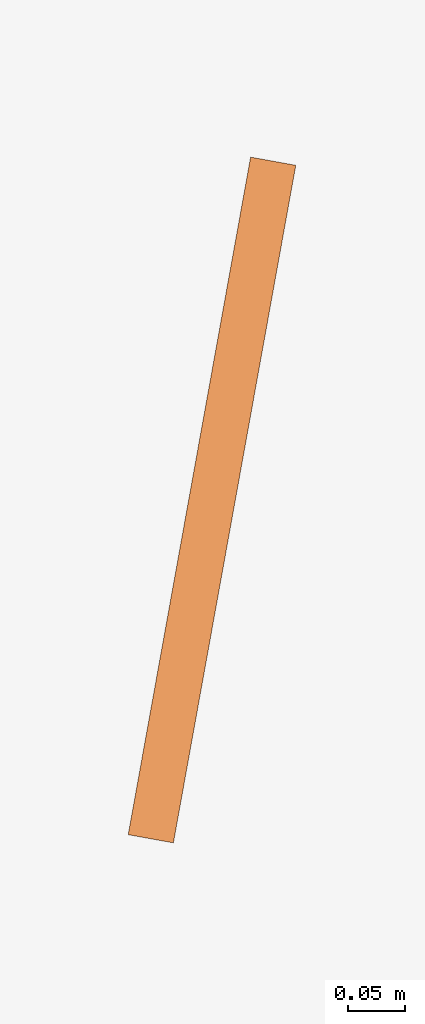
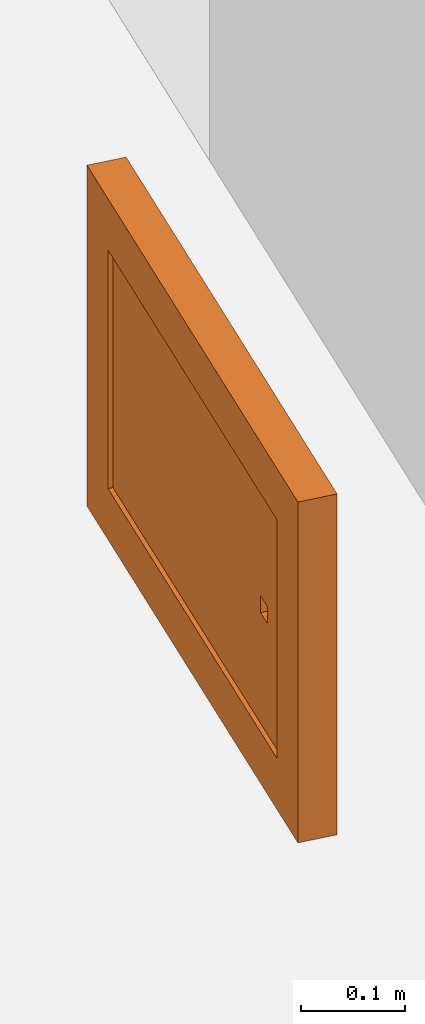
# One storey, part 32 of 52: 1 proxy.
"""IFC2X3 building model written with IfcOpenShell, lengths in metres."""

from ifc_helpers import new_model, entity, si_unit, converted_unit, derived_unit, money_unit, direction, frame, origin_with_axes, place, context, subcontext, project, spatial, open_shell, faceted_brep, surface_model, source, transform, mapped, material, type_object, element, save


model = new_model("IFC2X3")

# Units and contexts
model_context = context("Model", 3, precision=1e-05, world=origin_with_axes(), true_north=direction((0.0, 1.0)))
body_context = subcontext(model_context, "Body", "Model", "MODEL_VIEW")
ifc_project = project(units=[si_unit("LENGTHUNIT", "METRE"), si_unit("AREAUNIT", "SQUARE_METRE"), si_unit("VOLUMEUNIT", "CUBIC_METRE"), converted_unit("PLANEANGLEUNIT", "DEGREE", entity("IfcPlaneAngleMeasure", 0.0174532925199), si_unit("PLANEANGLEUNIT", "RADIAN"), dimensions=[0, 0, 0, 0, 0, 0, 0]), money_unit("CHF"), converted_unit("TIMEUNIT", "Year", entity("IfcTimeMeasure", 31556926.0), si_unit("TIMEUNIT", "SECOND"), dimensions=[0, 0, 1, 0, 0, 0, 0]), si_unit("MASSUNIT", "GRAM", prefix="KILO"), si_unit("THERMODYNAMICTEMPERATUREUNIT", "DEGREE_CELSIUS"), si_unit("LUMINOUSINTENSITYUNIT", "LUMEN"), si_unit("ENERGYUNIT", "JOULE", prefix="MEGA"), derived_unit("THERMALCONDUCTANCEUNIT", [(si_unit("POWERUNIT", "WATT"), 1), (si_unit("LENGTHUNIT", "METRE"), -1), (si_unit("THERMODYNAMICTEMPERATUREUNIT", "KELVIN"), -1)]), derived_unit("SPECIFICHEATCAPACITYUNIT", [(si_unit("ENERGYUNIT", "JOULE"), 1), (si_unit("MASSUNIT", "GRAM", prefix="KILO"), -1), (si_unit("THERMODYNAMICTEMPERATUREUNIT", "KELVIN"), -1)]), derived_unit("MASSDENSITYUNIT", [(si_unit("MASSUNIT", "GRAM", prefix="KILO"), 1), (si_unit("VOLUMEUNIT", "CUBIC_METRE"), -1)])], contexts=[model_context])

# Site, building, storey
site_placement = place(None, frame((0.0, 0.0, 0.0), z_axis=(0.0, 0.0, 1.0), x_axis=(-0.177771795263, -0.984071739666, 0.0)))
site = spatial("IfcSite", under=ifc_project, at=site_placement, Name="Site", CompositionType="ELEMENT")
building_placement = place(site_placement, origin_with_axes())
building = spatial("IfcBuilding", under=site, at=building_placement, Name="Bâtiment", CompositionType="ELEMENT")
storey_placement = place(building_placement, frame((0.0, 0.0, 3.2), z_axis=(0.0, 0.0, 1.0), x_axis=(1.0, 0.0, 0.0)))
storey = spatial("IfcBuildingStorey", under=building, at=storey_placement, Name="R+1", CompositionType="ELEMENT", Elevation=3.2)

# Proxy
ifc_material = material(Name="Matériau de construction IFC")
building_element_proxy_type = type_object("IfcBuildingElementProxyType", Name="Trappe-visite_JM", PredefinedType="NOTDEFINED")
shared_shape = source(origin_with_axes(), body_context, "Body", "SurfaceModel", [
    surface_model("IfcShellBasedSurfaceModel", [(0.6, -0.035, 0.0), (0.0, -0.035, 0.0), (0.0, -0.035, 0.4), (0.6, -0.035, 0.4), (0.54, -0.035, 0.06), (0.54, -0.035, 0.34), (0.06, -0.035, 0.34), (0.06, -0.035, 0.06)], [open_shell([[[0, 1, 2, 3], [4, 5, 6, 7]]])]),
    faceted_brep([(0.6, 0.005, 0.0), (0.6, -0.035, 0.0), (0.0, -0.035, 0.0), (0.0, 0.005, 0.0), (0.6, 0.005, 0.4), (0.6, -0.035, 0.4), (0.0, -0.035, 0.4), (0.54, -0.035, 0.06), (0.06, -0.035, 0.06), (0.06, -0.035, 0.34), (0.54, -0.035, 0.34), (0.0, 0.005, 0.4), (0.54, 0.005, 0.06), (0.54, 0.005, 0.34), (0.06, 0.005, 0.34), (0.06, 0.005, 0.06)], [[[0, 1, 2, 3]], [[4, 5, 1, 0]], [[1, 5, 6, 2], [7, 8, 9, 10]], [[3, 2, 6, 11]], [[0, 3, 11, 4], [12, 13, 14, 15]], [[11, 6, 5, 4]], [[15, 8, 7, 12]], [[14, 9, 8, 15]], [[13, 10, 9, 14]], [[12, 7, 10, 13]]]),
    faceted_brep([(0.06, 0.0, 0.06), (0.06, -0.02, 0.06), (0.06, -0.02, 0.34), (0.06, 0.0, 0.34), (0.54, 0.0, 0.06), (0.54, -0.02, 0.06), (0.54, -0.02, 0.34), (0.1, -0.02, 0.19), (0.1, -0.02, 0.21), (0.12, -0.02, 0.21), (0.12, -0.02, 0.19), (0.54, 0.0, 0.34), (0.1, 0.0, 0.19), (0.12, 0.0, 0.19), (0.12, 0.0, 0.21), (0.1, 0.0, 0.21)], [[[0, 1, 2, 3]], [[4, 5, 1, 0]], [[1, 5, 6, 2], [7, 8, 9, 10]], [[3, 2, 6, 11]], [[0, 3, 11, 4], [12, 13, 14, 15]], [[11, 6, 5, 4]], [[15, 8, 7, 12]], [[14, 9, 8, 15]], [[13, 10, 9, 14]], [[12, 7, 10, 13]]]),
])
proxy_placement = place(storey_placement, frame((138.224841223, -156.977151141, 0.1), z_axis=(0.0, 0.0, 1.0), x_axis=(-1.0, -3.08489988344e-07, 0.0)))
element("IfcBuildingElementProxy", 1, at=proxy_placement, inside=storey, type_object=building_element_proxy_type, material=ifc_material, Name="trappe clapet-CF", context=body_context, shape_type="MappedRepresentation", body=[
    mapped(shared_shape, transform((0.0, 0.0, 0.0))),
])

save(model, "model.ifc")
